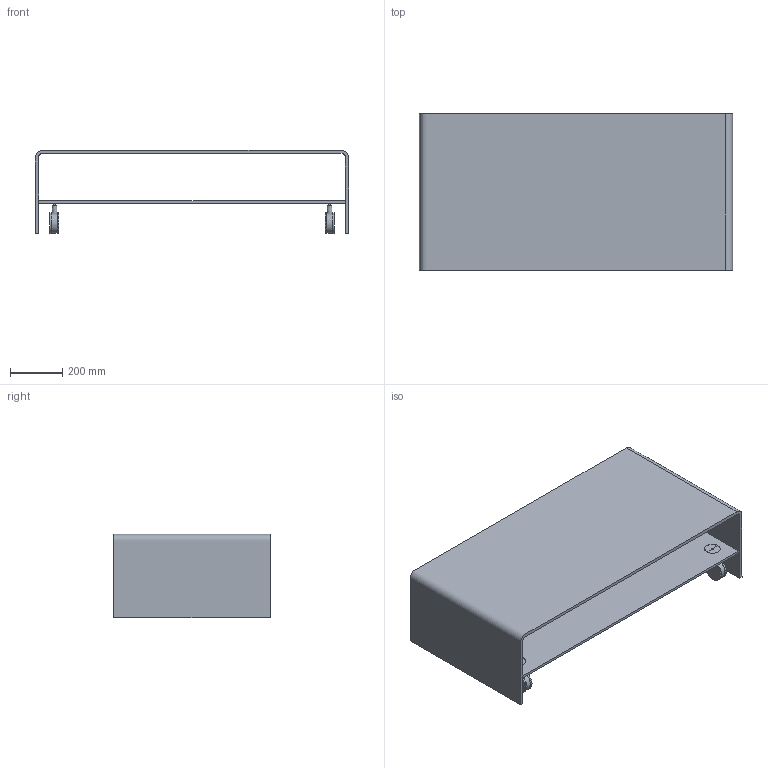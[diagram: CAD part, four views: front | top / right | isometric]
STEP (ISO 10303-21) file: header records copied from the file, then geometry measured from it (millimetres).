
FILE_DESCRIPTION(/* description */ (''),/* implementation_level */ '2;1');
FILE_NAME(/* name */ '0173 - Rialto Moving 120x60',/* time_stamp */ '2010-11-04T09:09:20+01:00',/* author */ (''),/* organization */ (''),/* preprocessor_version */ 'ST-DEVELOPER v10',/* originating_system */ '',/* authorisation */ '');
FILE_SCHEMA (('CONFIG_CONTROL_DESIGN'));
Length unit declared in the file: centimetre
Products named in the file (1): 1
Bounding box: 1200 x 600 x 320 mm (x, y, z)
Volume: 16894656.3 mm3; surface area: 3833534 mm2
Topology: 18 solids, 18 shells, 141 faces, 267 edges, 154 vertices
Faces by surface type: bspline 99, plane 42
Entity records: 3891 total; most frequent: CARTESIAN_POINT 2172, ORIENTED_EDGE 502, EDGE_CURVE 251, VERTEX_POINT 154, EDGE_LOOP 149, ADVANCED_FACE 141, FACE_OUTER_BOUND 141, B_SPLINE_CURVE_WITH_KNOTS 121
